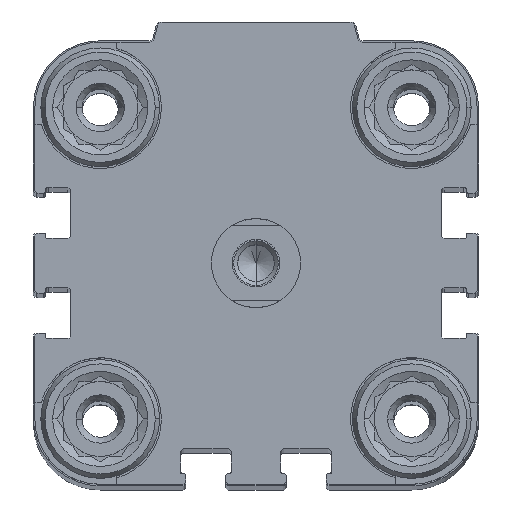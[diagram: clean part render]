
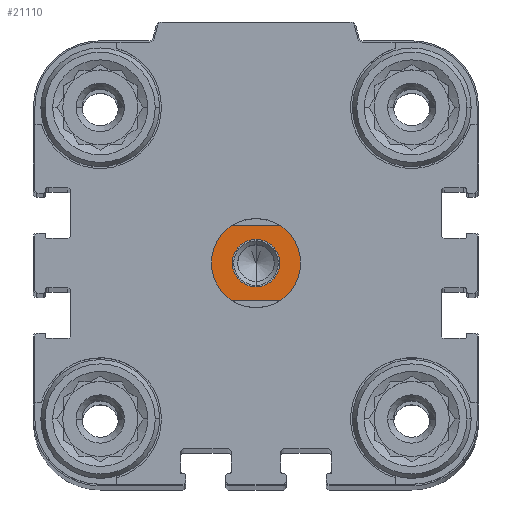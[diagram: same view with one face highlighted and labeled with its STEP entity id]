
A CAD part, top view. The second image highlights one B-rep face of the part: STEP entity #21110.
In plain terms, the highlighted planar face has unit normal (0, 0, 1).
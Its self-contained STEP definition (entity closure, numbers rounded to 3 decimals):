
#1350 = EDGE_CURVE ( 'NONE', #4906, #3421, #21339, .T. ) ;
#1781 = ORIENTED_EDGE ( 'NONE', *, *, #18242, .F. ) ;
#1990 = ORIENTED_EDGE ( 'NONE', *, *, #16910, .F. ) ;
#2022 = VECTOR ( 'NONE', #9333, 1000. ) ;
#2107 = DIRECTION ( 'NONE',  ( -1., 0., 0. ) ) ;
#2187 = CIRCLE ( 'NONE', #9471, 3.2 ) ;
#2278 = AXIS2_PLACEMENT_3D ( 'NONE', #10333, #17630, #19452 ) ;
#2371 = CARTESIAN_POINT ( 'NONE',  ( 0., 0., 6.5 ) ) ;
#2478 = DIRECTION ( 'NONE',  ( 0., 0., -1. ) ) ;
#3421 = VERTEX_POINT ( 'NONE', #10100 ) ;
#3463 = EDGE_CURVE ( 'NONE', #3421, #21966, #14707, .T. ) ;
#3888 = EDGE_CURVE ( 'NONE', #4964, #20163, #5164, .T. ) ;
#4241 = CIRCLE ( 'NONE', #6045, 6. ) ;
#4267 = CIRCLE ( 'NONE', #14874, 6. ) ;
#4285 = DIRECTION ( 'NONE',  ( 0., 0., -1. ) ) ;
#4631 = CARTESIAN_POINT ( 'NONE',  ( 0., -3.2, 6.5 ) ) ;
#4906 = VERTEX_POINT ( 'NONE', #13737 ) ;
#4964 = VERTEX_POINT ( 'NONE', #20480 ) ;
#5164 = CIRCLE ( 'NONE', #16508, 3.2 ) ;
#5188 = ORIENTED_EDGE ( 'NONE', *, *, #3888, .T. ) ;
#5215 = CARTESIAN_POINT ( 'NONE',  ( 0., 0., 6.5 ) ) ;
#5534 = CARTESIAN_POINT ( 'NONE',  ( 10., -5., 6.5 ) ) ;
#5992 = DIRECTION ( 'NONE',  ( -1., 0., 0. ) ) ;
#6045 = AXIS2_PLACEMENT_3D ( 'NONE', #10699, #21433, #19381 ) ;
#6833 = PLANE ( 'NONE',  #7224 ) ;
#7208 = ORIENTED_EDGE ( 'NONE', *, *, #1350, .F. ) ;
#7224 = AXIS2_PLACEMENT_3D ( 'NONE', #13816, #17353, #15646 ) ;
#8419 = DIRECTION ( 'NONE',  ( 0., 0., -1. ) ) ;
#8491 = EDGE_CURVE ( 'NONE', #13223, #9536, #8735, .T. ) ;
#8516 = EDGE_LOOP ( 'NONE', ( #7208, #1990, #19904, #17214, #1781, #16553 ) ) ;
#8735 = CIRCLE ( 'NONE', #21525, 6. ) ;
#8953 = LINE ( 'NONE', #5534, #16085 ) ;
#9333 = DIRECTION ( 'NONE',  ( 1., 0., 0. ) ) ;
#9471 = AXIS2_PLACEMENT_3D ( 'NONE', #2371, #10842, #10962 ) ;
#9536 = VERTEX_POINT ( 'NONE', #11078 ) ;
#10100 = CARTESIAN_POINT ( 'NONE',  ( 3.317, 5., 6.5 ) ) ;
#10333 = CARTESIAN_POINT ( 'NONE',  ( 0., 0., 6.5 ) ) ;
#10699 = CARTESIAN_POINT ( 'NONE',  ( 0., 0., 6.5 ) ) ;
#10721 = DIRECTION ( 'NONE',  ( 0., 1., 0. ) ) ;
#10842 = DIRECTION ( 'NONE',  ( 0., 0., -1. ) ) ;
#10962 = DIRECTION ( 'NONE',  ( 0., 1., 0. ) ) ;
#11078 = CARTESIAN_POINT ( 'NONE',  ( -6., 0., 6.5 ) ) ;
#11793 = VERTEX_POINT ( 'NONE', #18738 ) ;
#13223 = VERTEX_POINT ( 'NONE', #17473 ) ;
#13737 = CARTESIAN_POINT ( 'NONE',  ( -3.317, 5., 6.5 ) ) ;
#13816 = CARTESIAN_POINT ( 'NONE',  ( 0., 0., 6.5 ) ) ;
#14705 = CARTESIAN_POINT ( 'NONE',  ( 0., 0., 6.5 ) ) ;
#14707 = CIRCLE ( 'NONE', #2278, 6. ) ;
#14874 = AXIS2_PLACEMENT_3D ( 'NONE', #14705, #4285, #5992 ) ;
#15528 = FACE_OUTER_BOUND ( 'NONE', #8516, .T. ) ;
#15646 = DIRECTION ( 'NONE',  ( 0., 1., 0. ) ) ;
#16085 = VECTOR ( 'NONE', #2107, 1000. ) ;
#16446 = CARTESIAN_POINT ( 'NONE',  ( 0., 0., 6.5 ) ) ;
#16508 = AXIS2_PLACEMENT_3D ( 'NONE', #16446, #2478, #10721 ) ;
#16553 = ORIENTED_EDGE ( 'NONE', *, *, #3463, .F. ) ;
#16910 = EDGE_CURVE ( 'NONE', #9536, #4906, #4241, .T. ) ;
#17214 = ORIENTED_EDGE ( 'NONE', *, *, #22583, .F. ) ;
#17353 = DIRECTION ( 'NONE',  ( 0., 0., -1. ) ) ;
#17473 = CARTESIAN_POINT ( 'NONE',  ( -3.317, -5., 6.5 ) ) ;
#17577 = CARTESIAN_POINT ( 'NONE',  ( -10., 5., 6.5 ) ) ;
#17630 = DIRECTION ( 'NONE',  ( 0., 0., -1. ) ) ;
#18242 = EDGE_CURVE ( 'NONE', #21966, #11793, #4267, .T. ) ;
#18326 = EDGE_LOOP ( 'NONE', ( #5188, #20020 ) ) ;
#18738 = CARTESIAN_POINT ( 'NONE',  ( 3.317, -5., 6.5 ) ) ;
#18789 = CARTESIAN_POINT ( 'NONE',  ( 6., 0., 6.5 ) ) ;
#19381 = DIRECTION ( 'NONE',  ( -1., 0., 0. ) ) ;
#19452 = DIRECTION ( 'NONE',  ( -1., 0., 0. ) ) ;
#19904 = ORIENTED_EDGE ( 'NONE', *, *, #8491, .F. ) ;
#20020 = ORIENTED_EDGE ( 'NONE', *, *, #22400, .T. ) ;
#20163 = VERTEX_POINT ( 'NONE', #4631 ) ;
#20480 = CARTESIAN_POINT ( 'NONE',  ( 0., 3.2, 6.5 ) ) ;
#21110 = ADVANCED_FACE ( 'NONE', ( #15528, #22499 ), #6833, .F. ) ;
#21339 = LINE ( 'NONE', #17577, #2022 ) ;
#21433 = DIRECTION ( 'NONE',  ( 0., 0., -1. ) ) ;
#21525 = AXIS2_PLACEMENT_3D ( 'NONE', #5215, #8419, #22607 ) ;
#21966 = VERTEX_POINT ( 'NONE', #18789 ) ;
#22400 = EDGE_CURVE ( 'NONE', #20163, #4964, #2187, .T. ) ;
#22499 = FACE_BOUND ( 'NONE', #18326, .T. ) ;
#22583 = EDGE_CURVE ( 'NONE', #11793, #13223, #8953, .T. ) ;
#22607 = DIRECTION ( 'NONE',  ( -1., 0., 0. ) ) ;
